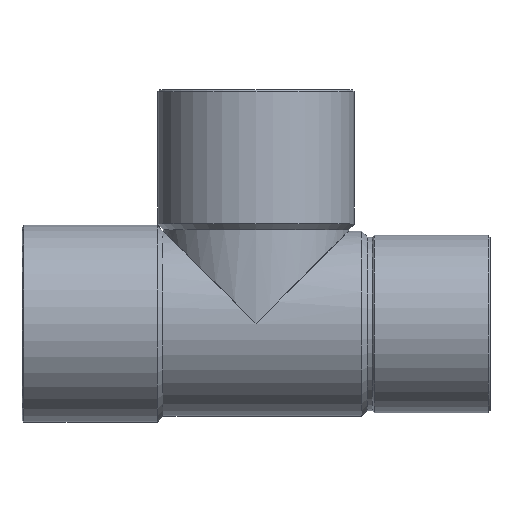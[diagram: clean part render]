
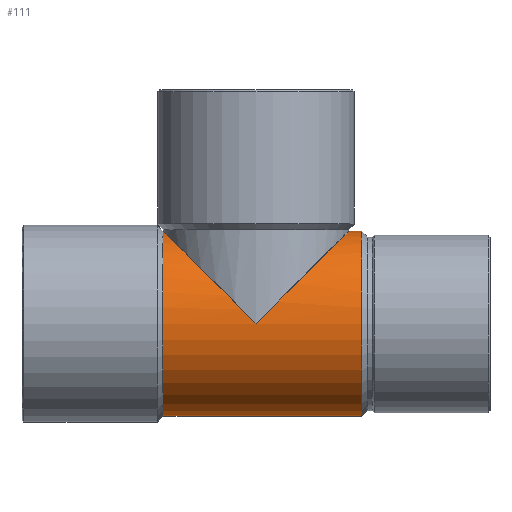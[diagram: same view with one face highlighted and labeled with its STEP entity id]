
A CAD part, top view. The second image highlights one B-rep face of the part: STEP entity #111.
In plain terms, the highlighted cylindrical face has radius 9.5 mm (diameter 19 mm), a partial arc.
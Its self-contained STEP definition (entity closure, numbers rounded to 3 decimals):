
#44=CARTESIAN_POINT('',(0.0,0.,0.0));
#45=DIRECTION('',(1.0,0.,0.0));
#46=DIRECTION('',(0.0,1.0,0.0));
#47=AXIS2_PLACEMENT_3D('',#44,#45,#46);
#48=CYLINDRICAL_SURFACE('',#47,9.5);
#49=CARTESIAN_POINT('',(-9.543,9.5,0.));
#50=VERTEX_POINT('',#49);
#51=CARTESIAN_POINT('',(-9.53,9.5,0.));
#52=VERTEX_POINT('',#51);
#53=CARTESIAN_POINT('',(-9.543,9.5,0.));
#54=DIRECTION('',(1.0,0.,0.));
#55=VECTOR('',#54,0.013);
#56=LINE('',#53,#55);
#57=EDGE_CURVE('',#50,#52,#56,.T.);
#58=ORIENTED_EDGE('',*,*,#57,.F.);
#59=CARTESIAN_POINT('',(-9.543,-9.5,0.));
#60=VERTEX_POINT('',#59);
#61=CARTESIAN_POINT('',(-9.543,0.,0.0));
#62=DIRECTION('',(1.0,0.0,0.0));
#63=DIRECTION('',(0.0,1.0,0.0));
#64=AXIS2_PLACEMENT_3D('',#61,#62,#63);
#65=CIRCLE('',#64,9.5);
#66=EDGE_CURVE('',#50,#60,#65,.T.);
#67=ORIENTED_EDGE('',*,*,#66,.T.);
#68=CARTESIAN_POINT('',(10.826,-9.5,0.));
#69=VERTEX_POINT('',#68);
#70=CARTESIAN_POINT('',(10.826,-9.5,0.));
#71=DIRECTION('',(-1.0,0.0,0.0));
#72=VECTOR('',#71,20.369);
#73=LINE('',#70,#72);
#74=EDGE_CURVE('',#69,#60,#73,.T.);
#75=ORIENTED_EDGE('',*,*,#74,.F.);
#76=CARTESIAN_POINT('',(10.826,9.5,0.0));
#77=VERTEX_POINT('',#76);
#78=CARTESIAN_POINT('',(10.826,0.,0.0));
#79=DIRECTION('',(-1.0,0.0,0.0));
#80=DIRECTION('',(0.0,1.0,0.0));
#81=AXIS2_PLACEMENT_3D('',#78,#79,#80);
#82=CIRCLE('',#81,9.5);
#83=EDGE_CURVE('',#69,#77,#82,.T.);
#84=ORIENTED_EDGE('',*,*,#83,.T.);
#85=CARTESIAN_POINT('',(9.53,9.5,0.));
#86=VERTEX_POINT('',#85);
#87=CARTESIAN_POINT('',(9.53,9.5,0.));
#88=DIRECTION('',(1.0,0.0,0.0));
#89=VECTOR('',#88,1.296);
#90=LINE('',#87,#89);
#91=EDGE_CURVE('',#86,#77,#90,.T.);
#92=ORIENTED_EDGE('',*,*,#91,.F.);
#93=CARTESIAN_POINT('',(0.,0.,9.5));
#94=VERTEX_POINT('',#93);
#95=CARTESIAN_POINT('',(0.,0.,0.0));
#96=DIRECTION('',(-0.706,0.708,0.));
#97=DIRECTION('',(0.708,0.706,0.0));
#98=AXIS2_PLACEMENT_3D('',#95,#96,#97);
#99=ELLIPSE('',#98,13.456,9.5);
#100=EDGE_CURVE('',#94,#86,#99,.T.);
#101=ORIENTED_EDGE('',*,*,#100,.F.);
#102=CARTESIAN_POINT('',(0.,0.,0.0));
#103=DIRECTION('',(0.706,0.708,0.));
#104=DIRECTION('',(-0.708,0.706,0.0));
#105=AXIS2_PLACEMENT_3D('',#102,#103,#104);
#106=ELLIPSE('',#105,13.456,9.5);
#107=EDGE_CURVE('',#52,#94,#106,.T.);
#108=ORIENTED_EDGE('',*,*,#107,.F.);
#109=EDGE_LOOP('',(#58,#67,#75,#84,#92,#101,#108));
#110=FACE_OUTER_BOUND('',#109,.T.);
#111=ADVANCED_FACE('',(#110),#48,.T.);
